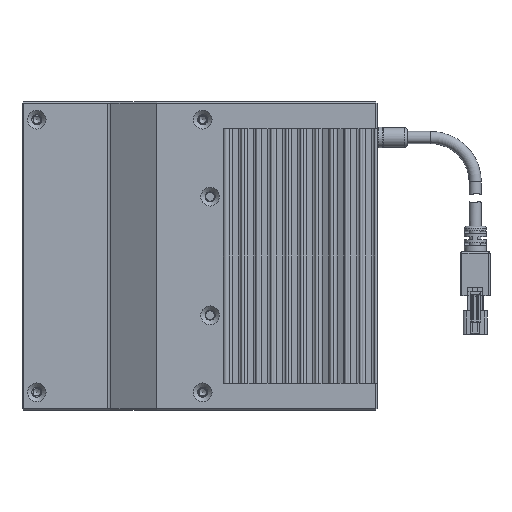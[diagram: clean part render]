
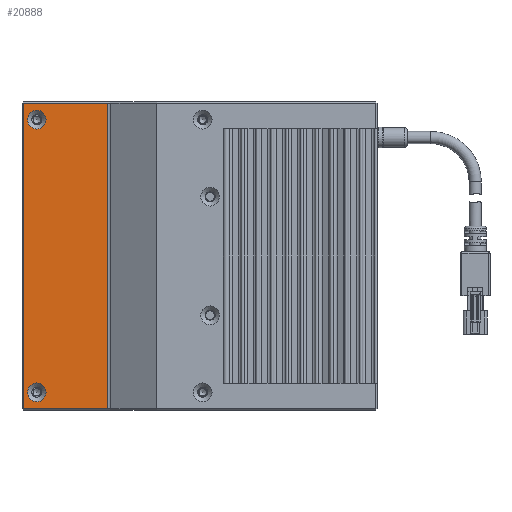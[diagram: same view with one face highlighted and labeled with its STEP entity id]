
A CAD part, left-side view. The second image highlights one B-rep face of the part: STEP entity #20888.
In plain terms, the highlighted planar face has unit normal (-1, 0, 0).
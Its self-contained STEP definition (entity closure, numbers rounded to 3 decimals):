
#280 = VECTOR ( 'NONE', #24752, 1000. ) ;
#311 = DIRECTION ( 'NONE',  ( -1., 0., 0. ) ) ;
#1307 = AXIS2_PLACEMENT_3D ( 'NONE', #2019, #311, #23525 ) ;
#2019 = CARTESIAN_POINT ( 'NONE',  ( -15.462, 16.939, 125.5 ) ) ;
#2519 = PLANE ( 'NONE',  #10839 ) ;
#2530 = CARTESIAN_POINT ( 'NONE',  ( -15.462, 21.439, 120. ) ) ;
#3535 = LINE ( 'NONE', #30285, #280 ) ;
#4087 = VERTEX_POINT ( 'NONE', #26385 ) ;
#4180 = VERTEX_POINT ( 'NONE', #24344 ) ;
#4698 = DIRECTION ( 'NONE',  ( 0., 1., 0. ) ) ;
#4904 = VECTOR ( 'NONE', #18736, 1000. ) ;
#5138 = EDGE_LOOP ( 'NONE', ( #21803 ) ) ;
#7506 = DIRECTION ( 'NONE',  ( 1., 0., 0. ) ) ;
#9512 = EDGE_CURVE ( 'NONE', #20880, #20880, #19435, .T. ) ;
#9879 = CARTESIAN_POINT ( 'NONE',  ( -15.462, 16.939, 128.65 ) ) ;
#10275 = VERTEX_POINT ( 'NONE', #14010 ) ;
#10839 = AXIS2_PLACEMENT_3D ( 'NONE', #15145, #7506, #30895 ) ;
#10965 = EDGE_LOOP ( 'NONE', ( #31759 ) ) ;
#12001 = FACE_OUTER_BOUND ( 'NONE', #18476, .T. ) ;
#12022 = VERTEX_POINT ( 'NONE', #9879 ) ;
#12638 = EDGE_CURVE ( 'NONE', #12022, #12022, #30909, .T. ) ;
#12726 = DIRECTION ( 'NONE',  ( -1., 0., 0. ) ) ;
#12832 = DIRECTION ( 'NONE',  ( 0., 0., 1. ) ) ;
#13755 = LINE ( 'NONE', #21096, #4904 ) ;
#14010 = CARTESIAN_POINT ( 'NONE',  ( -15.462, 21.439, 223. ) ) ;
#14439 = FACE_BOUND ( 'NONE', #5138, .T. ) ;
#15145 = CARTESIAN_POINT ( 'NONE',  ( -15.462, -7.561, 221.5 ) ) ;
#15812 = LINE ( 'NONE', #30230, #24239 ) ;
#17006 = DIRECTION ( 'NONE',  ( 0., 0., 1. ) ) ;
#17639 = ORIENTED_EDGE ( 'NONE', *, *, #19057, .F. ) ;
#17782 = CARTESIAN_POINT ( 'NONE',  ( -15.462, 16.939, 217.5 ) ) ;
#18476 = EDGE_LOOP ( 'NONE', ( #33357, #21148, #17639, #20018 ) ) ;
#18736 = DIRECTION ( 'NONE',  ( 0., 1., 0. ) ) ;
#19057 = EDGE_CURVE ( 'NONE', #4087, #4180, #3535, .T. ) ;
#19435 = CIRCLE ( 'NONE', #20431, 3.15 ) ;
#20018 = ORIENTED_EDGE ( 'NONE', *, *, #31209, .T. ) ;
#20431 = AXIS2_PLACEMENT_3D ( 'NONE', #17782, #12726, #12832 ) ;
#20880 = VERTEX_POINT ( 'NONE', #22788 ) ;
#20888 = ADVANCED_FACE ( 'NONE', ( #14439, #33381, #12001 ), #2519, .F. ) ;
#21096 = CARTESIAN_POINT ( 'NONE',  ( -15.462, -7.561, 120. ) ) ;
#21148 = ORIENTED_EDGE ( 'NONE', *, *, #31550, .F. ) ;
#21803 = ORIENTED_EDGE ( 'NONE', *, *, #12638, .F. ) ;
#22788 = CARTESIAN_POINT ( 'NONE',  ( -15.462, 16.939, 220.65 ) ) ;
#23525 = DIRECTION ( 'NONE',  ( 0., 0., 1. ) ) ;
#23848 = VERTEX_POINT ( 'NONE', #2530 ) ;
#24239 = VECTOR ( 'NONE', #4698, 1000. ) ;
#24247 = LINE ( 'NONE', #29506, #30751 ) ;
#24268 = EDGE_CURVE ( 'NONE', #23848, #10275, #24247, .T. ) ;
#24344 = CARTESIAN_POINT ( 'NONE',  ( -15.462, -6.987, 120. ) ) ;
#24752 = DIRECTION ( 'NONE',  ( 0., 0., -1. ) ) ;
#26385 = CARTESIAN_POINT ( 'NONE',  ( -15.462, -6.987, 223. ) ) ;
#29506 = CARTESIAN_POINT ( 'NONE',  ( -15.462, 21.439, 221.5 ) ) ;
#30230 = CARTESIAN_POINT ( 'NONE',  ( -15.462, -7.561, 223. ) ) ;
#30285 = CARTESIAN_POINT ( 'NONE',  ( -15.462, -6.987, 221.5 ) ) ;
#30751 = VECTOR ( 'NONE', #17006, 1000. ) ;
#30895 = DIRECTION ( 'NONE',  ( 0., 0., -1. ) ) ;
#30909 = CIRCLE ( 'NONE', #1307, 3.15 ) ;
#31209 = EDGE_CURVE ( 'NONE', #4087, #10275, #15812, .T. ) ;
#31550 = EDGE_CURVE ( 'NONE', #4180, #23848, #13755, .T. ) ;
#31759 = ORIENTED_EDGE ( 'NONE', *, *, #9512, .F. ) ;
#33357 = ORIENTED_EDGE ( 'NONE', *, *, #24268, .F. ) ;
#33381 = FACE_BOUND ( 'NONE', #10965, .T. ) ;
